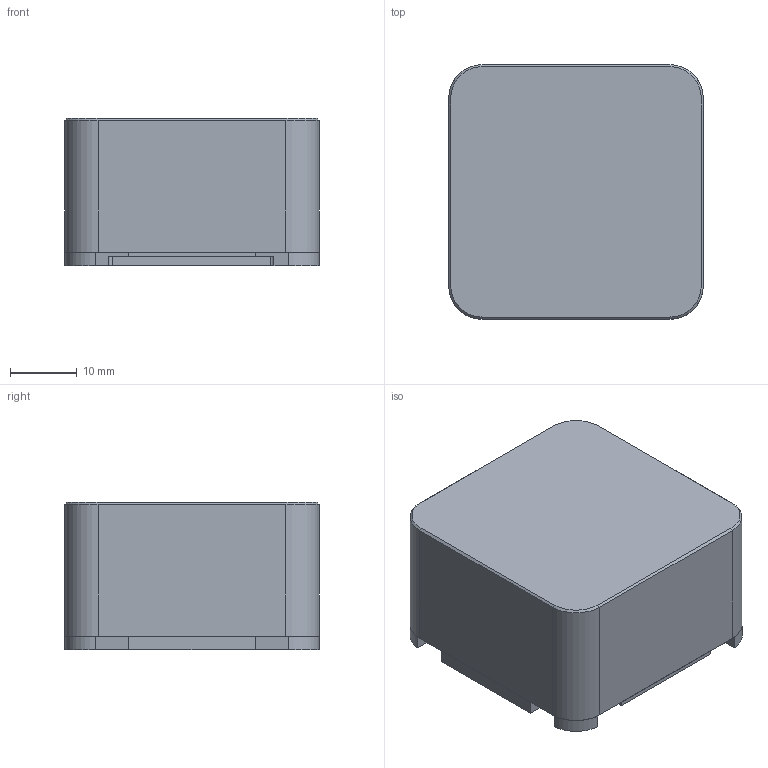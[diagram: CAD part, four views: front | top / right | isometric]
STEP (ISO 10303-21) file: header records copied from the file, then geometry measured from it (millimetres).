
FILE_DESCRIPTION (( 'STEP AP214' ), '1' );
FILE_NAME ('CubeOrange.STEP', '2020-11-13T01:57:11', ( 'User' ), ( 'User' ), 'SwSTEP 2.0', 'SolidWorks 2018', '' );
FILE_SCHEMA (( 'AUTOMOTIVE_DESIGN' ));
Length unit declared in the file: millimetre
Products named in the file (3): CubeOrange; cubemini_base_v1_20180513.stp; std_cube_lid_h20-1mm_20180816.stp
Assembly tree (2 placements, depth 2):
  CubeOrange
    cubemini_base_v1_20180513.stp
    std_cube_lid_h20-1mm_20180816.stp
Bounding box: 38.2 x 38.2 x 22.1 mm (x, y, z)
Volume: 5978.3 mm3; surface area: 12643.8 mm2
Topology: 2 solids, 2 shells, 505 faces, 1402 edges, 902 vertices
Faces by surface type: plane 285, cylinder 167, cone 29, torus 24
Entity records: 16425 total; most frequent: CARTESIAN_POINT 3161, ORIENTED_EDGE 2804, DIRECTION 2758, EDGE_CURVE 1402, LINE 946, VECTOR 946, AXIS2_PLACEMENT_3D 906, VERTEX_POINT 902
